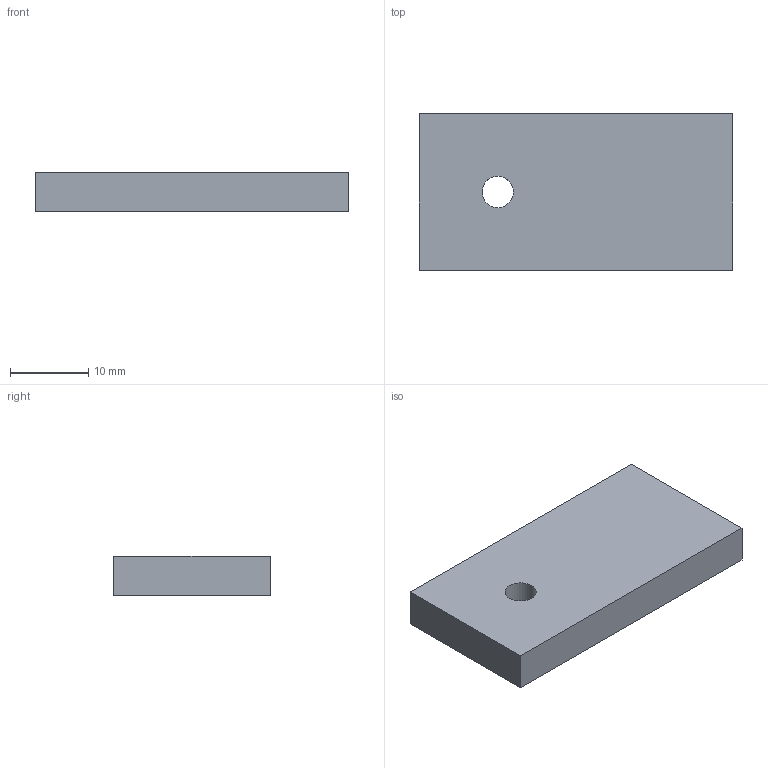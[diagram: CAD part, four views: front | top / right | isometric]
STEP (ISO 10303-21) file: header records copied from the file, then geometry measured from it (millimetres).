
FILE_DESCRIPTION(('FreeCAD Model'),'2;1');
FILE_NAME('Open CASCADE Shape Model','2026-10-19T03:22:33',('FreeCAD'),( 'FreeCAD'),'Open CASCADE STEP processor 7.8','FreeCAD','Unknown');
FILE_SCHEMA(('AUTOMOTIVE_DESIGN { 1 0 10303 214 1 1 1 1 }'));
Length unit declared in the file: millimetre
Products named in the file (1): Open CASCADE STEP translator 7.8 1
Bounding box: 40 x 20 x 5 mm (x, y, z)
Volume: 3937.2 mm3; surface area: 2237.7 mm2
Topology: 1 solids, 1 shells, 7 faces, 15 edges, 10 vertices
Faces by surface type: plane 6, cylinder 1
Full cylindrical faces by diameter (mm): 4 x1
Entity records: 205 total; most frequent: CARTESIAN_POINT 33, DIRECTION 33, ORIENTED_EDGE 30, EDGE_CURVE 15, LINE 13, VECTOR 13, AXIS2_PLACEMENT_3D 10, VERTEX_POINT 10
